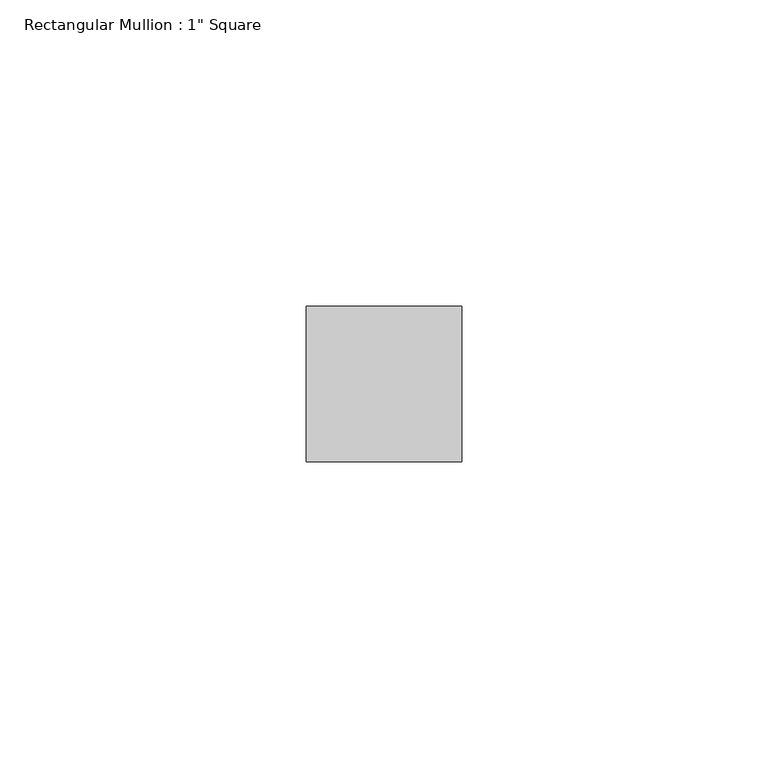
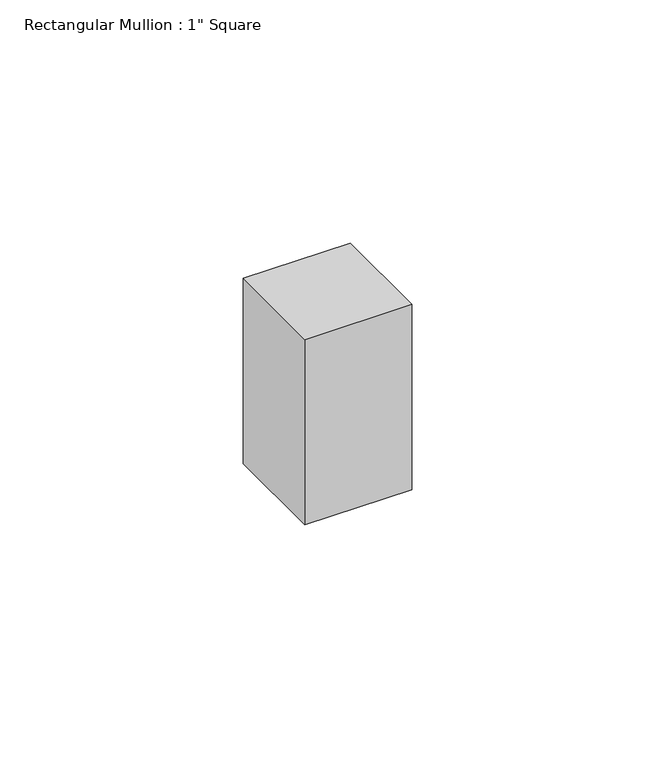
"""IFC4 building model written with IfcOpenShell, lengths in millimetres: member geometry."""

from ifc_helpers import new_model, si_unit, frame, origin, place, context, project, spatial, polyline, outline, extrude, source, transform, mapped, element, save


def member_d79d2994(model_context):
    return source(origin(), model_context, "Body", "SweptSolid", [
        extrude(outline(polyline([(12.7, 12.7), (12.7, -12.7), (-12.7, -12.7), (-12.7, 12.7), (12.7, 12.7)])), frame((0.0, 0.0, -46.4782635), z_axis=(0.0, 0.0, 1.0), x_axis=(1.0, 0.0, 0.0)), (0.0, 0.0, 1.0), 46.4782635),
    ])


if __name__ == "__main__":
    model = new_model("IFC4")
    model_context = context("Model", 3, world=origin())
    ifc_project = project(units=[si_unit("LENGTHUNIT", "METRE", prefix="MILLI")], contexts=[model_context])
    site = spatial("IfcSite", under=ifc_project)
    building = spatial("IfcBuilding", under=site)
    placement = place(None, origin())
    member_shape = member_d79d2994(model_context)
    element("IfcMember", 1, ObjectType="Rectangular Mullion : 1\" Square", at=placement, inside=building, context=model_context, shape_type="MappedRepresentation", body=[
        mapped(member_shape, transform((0.0, 0.0, 0.0), x_axis=(1.0, 0.0, 0.0), y_axis=(0.0, 1.0, 0.0), z_axis=(0.0, 0.0, 1.0))),
    ])
    save(model, "model.ifc")
